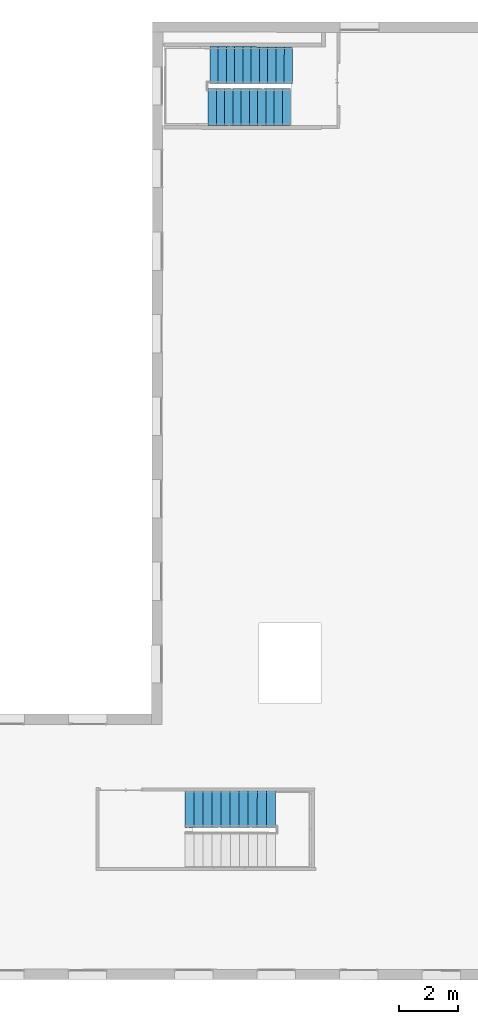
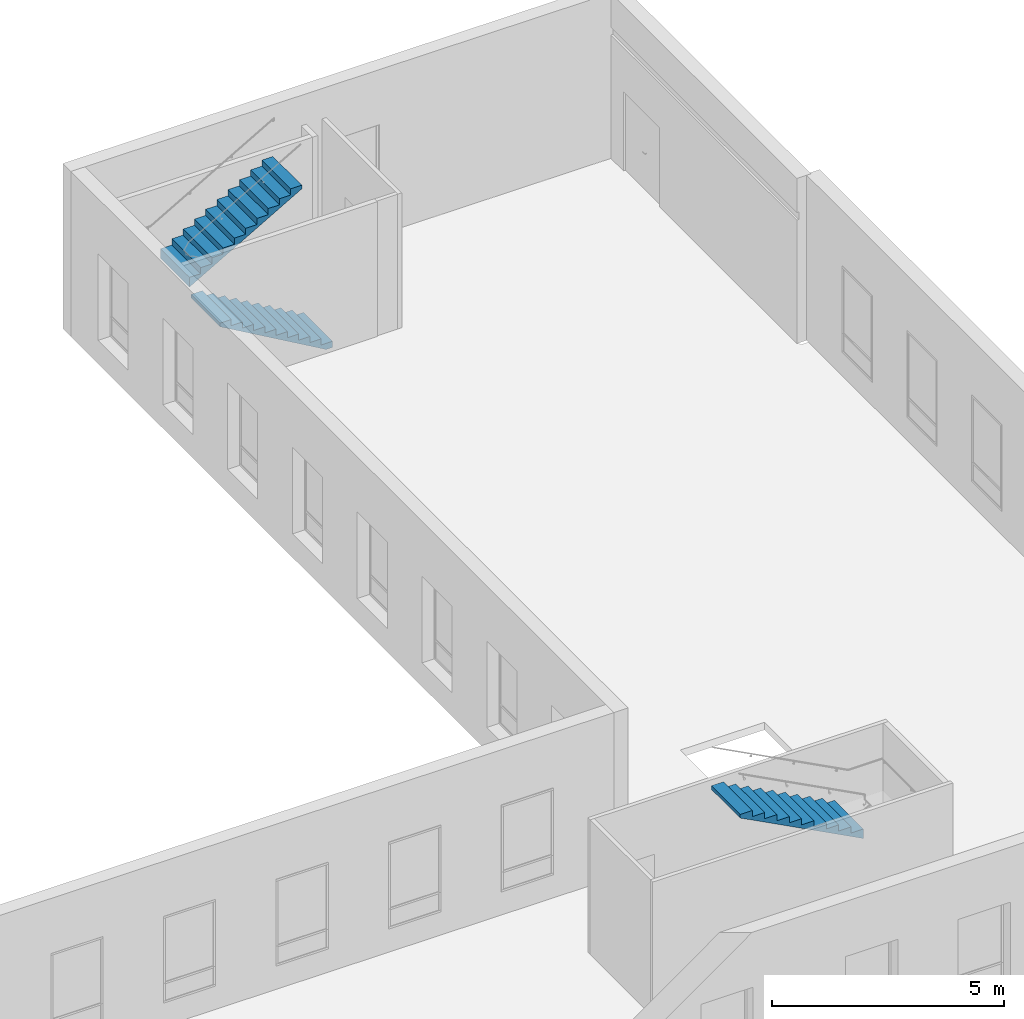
# One storey, part 35 of 35: 3 stair flights, 2 elements without a shape of their own.
"""IFC2X3 building model written with IfcOpenShell, lengths in metres."""

from ifc_helpers import new_model, entity, si_unit, converted_unit, derived_unit, direction, frame, origin, place, context, subcontext, project, spatial, faceted_brep, material, type_object, element, aggregate, save


model = new_model("IFC2X3")

# Units and contexts
model_context = context("Model", 3, precision=1e-05, world=origin(), true_north=direction((6.123233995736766e-17, 1.0)))
body_context = subcontext(model_context, "Body", "Model", "MODEL_VIEW")
ifc_project = project(units=[si_unit("LENGTHUNIT", "METRE"), si_unit("AREAUNIT", "SQUARE_METRE"), converted_unit("PLANEANGLEUNIT", "DEGREE", entity("IfcPlaneAngleMeasure", 0.017453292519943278), si_unit("PLANEANGLEUNIT", "RADIAN"), dimensions=[0, 0, 0, 0, 0, 0, 0]), derived_unit("THERMALTRANSMITTANCEUNIT", [(si_unit("MASSUNIT", "GRAM", prefix="KILO"), 1), (si_unit("THERMODYNAMICTEMPERATUREUNIT", "KELVIN"), -1), (si_unit("TIMEUNIT", "SECOND"), -3)])], contexts=[model_context])

# Site, building, storey
site_placement = place(None, frame((1253.6752467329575, 2072.143113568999, 91.49999999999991), z_axis=(0.0, 0.0, 1.0), x_axis=(0.7237211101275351, 0.6900925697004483, 0.0)))
site = spatial("IfcSite", under=ifc_project, at=site_placement, Name="Surface", CompositionType="ELEMENT")
building_placement = place(site_placement, origin())
building = spatial("IfcBuilding", under=site, at=building_placement, CompositionType="ELEMENT")
storey_placement = place(building_placement, frame((0.0, 0.0, 3.549999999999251)))
storey = spatial("IfcBuildingStorey", under=building, at=storey_placement, Name="1-R+1", CompositionType="ELEMENT", Elevation=3.549999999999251)

# Stair, stair flights
type_product = type_object("IfcTypeProduct", Name="Escalier coulé sur place:Monobloc")
stair_1_placement = place(storey_placement, origin())
stair_1 = element("IfcStair", 1, at=stair_1_placement, inside=storey, type_object=type_product, Name="Escalier coulé sur place:Escalier", ObjectType="Escalier coulé sur place:Monobloc", ShapeType="HALF_TURN_STAIR")
ifc_material = material(Name="<Unnamed>")
stair_flight_type = type_object("IfcStairFlightType", Name="Volée monobloc:Nez de marche 5 mm", PredefinedType="STRAIGHT")
stair_flight_1_placement = place(stair_1_placement, frame((191.56231951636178, -1.3462725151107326, 0.0)))
stair_flight_1 = element("IfcStairFlight", 2, at=stair_flight_1_placement, type_object=stair_flight_type, material=ifc_material, Name="Escalier coulé sur place:Escalier:3294087 Run 1", ObjectType="Volée monobloc:Nez de marche 5 mm", NumberOfRiser=11, NumberOfTreads=10, RiserHeight=0.5294082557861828, TreadLength=0.9186351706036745, context=body_context, shape_type="Brep", body=[
    faceted_brep([(1.0661334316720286, 2.6414120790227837, 1.9363636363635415), (0.8637297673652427, 2.834887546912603, 1.9363636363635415), (0.0, 1.9312997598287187, 1.9363636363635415), (0.2024036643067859, 1.7378242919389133, 1.9363636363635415), (1.0661334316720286, 2.641412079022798, 1.8440296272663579), (0.8637297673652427, 2.834887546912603, 1.6826659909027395), (0.8637297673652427, 2.834887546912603, 1.7749999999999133), (0.0, 1.9312997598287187, 1.6826659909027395), (0.0, 1.9312997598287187, 1.7749999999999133), (0.2024036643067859, 1.7378242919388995, 1.8440296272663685), (1.268537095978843, 2.447936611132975, 2.0977272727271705), (1.0661334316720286, 2.6414120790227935, 2.0977272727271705), (0.2024036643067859, 1.7378242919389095, 2.0977272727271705), (0.4048073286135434, 1.5443488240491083, 2.0977272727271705), (1.268537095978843, 2.447936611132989, 2.0053932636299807), (0.4048073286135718, 1.5443488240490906, 2.0053932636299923), (1.470940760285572, 2.254461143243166, 2.259090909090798), (1.268537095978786, 2.4479366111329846, 2.259090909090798), (0.4048073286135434, 1.5443488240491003, 2.259090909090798), (0.6072109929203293, 1.3508733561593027, 2.259090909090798), (1.470940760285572, 2.2544611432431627, 2.1667568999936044), (0.6072109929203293, 1.3508733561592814, 2.1667568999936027), (1.6733444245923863, 2.060985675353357, 2.420454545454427), (1.470940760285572, 2.2544611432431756, 2.420454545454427), (0.6072109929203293, 1.3508733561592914, 2.420454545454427), (0.8096146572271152, 1.1573978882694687, 2.420454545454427), (1.6733444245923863, 2.0609856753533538, 2.3281205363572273), (0.8096146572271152, 1.1573978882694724, 2.3281205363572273), (1.8757480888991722, 1.8675102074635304, 2.581818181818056), (1.6733444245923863, 2.0609856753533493, 2.581818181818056), (0.8096146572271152, 1.1573978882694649, 2.581818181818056), (1.0120183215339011, 0.9639224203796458, 2.581818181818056), (1.8757480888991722, 1.8675102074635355, 2.489484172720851), (1.0120183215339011, 0.9639224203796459, 2.489484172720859), (2.078151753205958, 1.6740347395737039, 2.743181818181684), (1.8757480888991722, 1.8675102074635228, 2.743181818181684), (1.0120183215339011, 0.9639224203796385, 2.743181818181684), (1.214421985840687, 0.7704469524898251, 2.743181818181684), (2.078151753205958, 1.6740347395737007, 2.6508478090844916), (1.214421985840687, 0.7704469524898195, 2.6508478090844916), (2.280555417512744, 1.480559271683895, 2.904545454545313), (2.078151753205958, 1.6740347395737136, 2.904545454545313), (1.214421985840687, 0.7704469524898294, 2.904545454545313), (1.4168256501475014, 0.5769714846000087, 2.904545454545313), (2.280555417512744, 1.4805592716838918, 2.8122114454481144), (1.4168256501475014, 0.5769714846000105, 2.8122114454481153), (2.48295908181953, 1.2870838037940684, 3.0659090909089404), (2.280555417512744, 1.4805592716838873, 3.0659090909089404), (1.4168256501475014, 0.576971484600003, 3.0659090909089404), (1.6192293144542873, 0.38349601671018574, 3.0659090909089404), (2.4829590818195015, 1.2870838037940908, 2.9735750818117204), (1.6192293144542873, 0.3834960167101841, 2.973575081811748), (2.685362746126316, 1.0936083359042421, 3.2272727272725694), (2.48295908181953, 1.2870838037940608, 3.2272727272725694), (1.6192293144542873, 0.38349601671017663, 3.2272727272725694), (1.8216329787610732, 0.19002054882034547, 3.2272727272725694), (2.685362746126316, 1.0936083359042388, 3.1349387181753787), (1.8216329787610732, 0.19002054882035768, 3.1349387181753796), (2.8841520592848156, 0.9035877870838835, 3.3886363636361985), (2.6853627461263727, 1.0936083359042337, 3.3886363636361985), (1.8216329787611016, 0.1900205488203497, 3.3886363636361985), (2.0204222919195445, 0.0, 3.3886363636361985), (2.8841520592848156, 0.9035877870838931, 3.293420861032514), (2.0204222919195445, 0.0, 3.293420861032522)], [[[0, 1, 2, 3]], [[1, 0, 4, 5, 6]], [[2, 1, 6, 5, 7, 8]], [[3, 2, 8, 7, 9]], [[10, 11, 12, 13]], [[11, 10, 14, 4, 0]], [[12, 11, 0, 3]], [[13, 12, 3, 9, 15]], [[16, 17, 18, 19]], [[17, 16, 20, 14, 10]], [[18, 17, 10, 13]], [[19, 18, 13, 15, 21]], [[22, 23, 24, 25]], [[23, 22, 26, 20, 16]], [[24, 23, 16, 19]], [[25, 24, 19, 21, 27]], [[28, 29, 30, 31]], [[29, 28, 32, 26, 22]], [[30, 29, 22, 25]], [[31, 30, 25, 27, 33]], [[34, 35, 36, 37]], [[35, 34, 38, 32, 28]], [[36, 35, 28, 31]], [[37, 36, 31, 33, 39]], [[40, 41, 42, 43]], [[41, 40, 44, 38, 34]], [[42, 41, 34, 37]], [[43, 42, 37, 39, 45]], [[46, 47, 48, 49]], [[47, 46, 50, 44, 40]], [[48, 47, 40, 43]], [[49, 48, 43, 45, 51]], [[52, 53, 54, 55]], [[53, 52, 56, 50, 46]], [[54, 53, 46, 49]], [[55, 54, 49, 51, 57]], [[58, 59, 60, 61]], [[59, 58, 62, 56, 52]], [[60, 59, 52, 55]], [[61, 60, 55, 57, 63]], [[58, 61, 63, 62]], [[5, 4, 14, 20, 26, 32, 38, 44, 50, 56, 62, 63, 57, 51, 45, 39, 33, 27, 21, 15, 9, 7]]]),
])
stair_flight_2_placement = place(stair_1_placement, frame((190.53775028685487, -2.3347441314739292, 0.0)))
stair_flight_2 = element("IfcStairFlight", 3, at=stair_flight_2_placement, type_object=stair_flight_type, material=ifc_material, Name="Escalier coulé sur place:Escalier:3294087 Run 2", ObjectType="Volée monobloc:Nez de marche 5 mm", NumberOfRiser=11, NumberOfTreads=10, RiserHeight=0.5294082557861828, TreadLength=0.9186351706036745, context=body_context, shape_type="Brep", body=[
    faceted_brep([(1.8216329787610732, 0.19347546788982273, 0.1613636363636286), (2.024036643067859, 0.0, 0.1613636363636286), (2.88776641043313, 0.9035877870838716, 0.1613636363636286), (2.685362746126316, 1.0970632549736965, 0.1613636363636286), (1.8216329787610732, 0.19347546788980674, 0.06902962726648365), (1.9082190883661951, 0.1107087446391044, 0.0), (2.024036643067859, 0.0, 0.0), (2.88776641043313, 0.9035877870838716, 0.0), (2.7719488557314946, 1.014296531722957, 0.0), (2.685362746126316, 1.0970632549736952, 0.06902962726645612), (1.6192293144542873, 0.38695093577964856, 0.32272727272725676), (1.8216329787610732, 0.19347546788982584, 0.32272727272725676), (2.685362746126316, 1.0970632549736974, 0.32272727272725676), (2.48295908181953, 1.290538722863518, 0.32272727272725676), (1.6192293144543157, 0.38695093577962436, 0.2303932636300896), (2.48295908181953, 1.2905387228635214, 0.23039326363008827), (1.416825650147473, 0.5804264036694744, 0.48409090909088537), (1.6192293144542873, 0.3869509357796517, 0.48409090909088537), (2.48295908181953, 1.2905387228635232, 0.48409090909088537), (2.280555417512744, 1.484014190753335, 0.48409090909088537), (1.416825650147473, 0.5804264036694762, 0.3917568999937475), (2.280555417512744, 1.4840141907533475, 0.39175689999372), (1.214421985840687, 0.7739018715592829, 0.6454545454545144), (1.416825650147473, 0.5804264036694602, 0.6454545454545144), (2.280555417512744, 1.484014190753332, 0.6454545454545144), (2.078151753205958, 1.6774896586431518, 0.6454545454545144), (1.214421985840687, 0.7739018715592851, 0.5531205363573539), (2.078151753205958, 1.6774896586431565, 0.5531205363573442), (1.0120183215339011, 0.967377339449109, 0.8068181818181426), (1.214421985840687, 0.7739018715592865, 0.8068181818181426), (2.078151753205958, 1.677489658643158, 0.8068181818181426), (1.8757480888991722, 1.87096512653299, 0.8068181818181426), (1.0120183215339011, 0.9673773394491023, 0.7144841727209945), (1.8757480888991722, 1.8709651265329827, 0.7144841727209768), (0.8096146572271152, 1.1608528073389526, 0.9681818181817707), (1.0120183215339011, 0.9673773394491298, 0.9681818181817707), (1.8757480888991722, 1.8709651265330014, 0.9681818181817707), (1.6733444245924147, 2.064440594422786, 0.9681818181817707), (0.8096146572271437, 1.1608528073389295, 0.8758478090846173), (1.6733444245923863, 2.0644405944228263, 0.8758478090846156), (0.6072109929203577, 1.354328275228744, 1.129545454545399), (0.8096146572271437, 1.1608528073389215, 1.129545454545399), (1.6733444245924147, 2.064440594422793, 1.129545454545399), (1.4709407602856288, 2.257916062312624, 1.129545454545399), (0.6072109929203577, 1.3543282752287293, 1.037211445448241), (1.4709407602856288, 2.257916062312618, 1.0372114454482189), (0.4048073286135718, 1.5478037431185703, 1.290909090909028), (0.6072109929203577, 1.3543282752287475, 1.290909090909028), (1.4709407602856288, 2.257916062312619, 1.290909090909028), (1.2685370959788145, 2.4513915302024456, 1.290909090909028), (0.40480732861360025, 1.5478037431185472, 1.198575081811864), (1.2685370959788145, 2.4513915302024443, 1.1985750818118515), (0.2024036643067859, 1.7412792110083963, 1.452272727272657), (0.4048073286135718, 1.5478037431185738, 1.452272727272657), (1.2685370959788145, 2.451391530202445, 1.452272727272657), (1.0661334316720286, 2.6448669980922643, 1.452272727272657), (0.20240366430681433, 1.7412792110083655, 1.3599387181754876), (1.0661334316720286, 2.6448669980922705, 1.3599387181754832), (0.0, 1.9347546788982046, 1.6136363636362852), (0.0036143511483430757, 1.9312997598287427, 1.6136363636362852), (0.2024036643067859, 1.7412792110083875, 1.6136363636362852), (1.0661334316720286, 2.64486699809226, 1.6136363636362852), (0.8637297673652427, 2.838342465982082, 1.6136363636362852), (0.0, 1.934754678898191, 1.5213023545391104), (0.0036143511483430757, 1.9312997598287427, 1.5184208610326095), (0.8637297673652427, 2.838342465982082, 1.5213023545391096)], [[[0, 1, 2, 3]], [[1, 0, 4, 5, 6]], [[2, 1, 6, 7]], [[3, 2, 7, 8, 9]], [[10, 11, 12, 13]], [[11, 10, 14, 4, 0]], [[0, 3, 12, 11]], [[13, 12, 3, 9, 15]], [[16, 17, 18, 19]], [[17, 16, 20, 14, 10]], [[10, 13, 18, 17]], [[19, 18, 13, 15, 21]], [[22, 23, 24, 25]], [[23, 22, 26, 20, 16]], [[16, 19, 24, 23]], [[25, 24, 19, 21, 27]], [[28, 29, 30, 31]], [[29, 28, 32, 26, 22]], [[22, 25, 30, 29]], [[31, 30, 25, 27, 33]], [[34, 35, 36, 37]], [[35, 34, 38, 32, 28]], [[28, 31, 36, 35]], [[37, 36, 31, 33, 39]], [[40, 41, 42, 43]], [[41, 40, 44, 38, 34]], [[34, 37, 42, 41]], [[43, 42, 37, 39, 45]], [[46, 47, 48, 49]], [[47, 46, 50, 44, 40]], [[40, 43, 48, 47]], [[49, 48, 43, 45, 51]], [[52, 53, 54, 55]], [[53, 52, 56, 50, 46]], [[46, 49, 54, 53]], [[55, 54, 49, 51, 57]], [[58, 59, 60, 61, 62]], [[59, 58, 63, 64]], [[52, 55, 61, 60]], [[62, 61, 55, 57, 65]], [[58, 62, 65, 63]], [[7, 6, 5, 8]], [[60, 59, 64, 56, 52]], [[8, 5, 4, 14, 20, 26, 32, 38, 44, 50, 56, 64, 63, 65, 57, 51, 45, 39, 33, 27, 21, 15, 9]]]),
])
aggregate(stair_1, [stair_flight_1, stair_flight_2])

# Stair, stair flight
stair_2_placement = place(storey_placement, origin())
stair_2 = element("IfcStair", 4, at=stair_2_placement, inside=storey, type_object=type_product, Name="Escalier coulé sur place:Escalier", ObjectType="Escalier coulé sur place:Monobloc", ShapeType="HALF_TURN_STAIR")
stair_flight_3_placement = place(stair_2_placement, frame((173.541142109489, -19.204087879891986, 0.0)))
stair_flight_3 = element("IfcStairFlight", 5, at=stair_flight_3_placement, type_object=stair_flight_type, material=ifc_material, Name="Escalier coulé sur place:Escalier:3294156 Run 2", ObjectType="Volée monobloc:Nez de marche 5 mm", NumberOfRiser=11, NumberOfTreads=10, RiserHeight=0.5294082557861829, TreadLength=1.0081126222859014, context=body_context, shape_type="Brep", body=[
    faceted_brep([(1.9954504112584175, 0.21232048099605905, 1.9363636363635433), (2.2175687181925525, 0.0, 1.9363636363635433), (3.0812984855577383, 0.9035877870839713, 1.9363636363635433), (2.85918017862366, 1.1159082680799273, 1.9363636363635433), (1.9954504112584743, 0.21232048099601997, 1.8460032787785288), (2.2175687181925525, 0.0, 1.684639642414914), (2.2175687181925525, 0.0, 1.7749999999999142), (3.0812984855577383, 0.9035877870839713, 1.6846396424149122), (3.0812984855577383, 0.9035877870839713, 1.7749999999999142), (2.8591801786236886, 1.115908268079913, 1.8460032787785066), (1.7733321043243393, 0.42464096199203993, 2.0977272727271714), (1.9954504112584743, 0.21232048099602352, 2.0977272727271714), (2.85918017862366, 1.1159082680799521, 2.0977272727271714), (2.637061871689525, 1.3282287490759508, 2.0977272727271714), (1.7733321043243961, 0.4246409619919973, 2.0073669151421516), (2.6370618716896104, 1.328228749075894, 2.0073669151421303), (1.5512137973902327, 0.6369614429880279, 2.2590909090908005), (1.7733321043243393, 0.4246409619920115, 2.2590909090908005), (2.637061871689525, 1.3282287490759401, 2.2590909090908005), (2.414943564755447, 1.5405492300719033, 2.2590909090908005), (1.551213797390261, 0.6369614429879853, 2.168730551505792), (2.4149435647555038, 1.5405492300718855, 2.168730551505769), (1.329095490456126, 0.8492819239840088, 2.4204545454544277), (1.5512137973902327, 0.6369614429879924, 2.4204545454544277), (2.4149435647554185, 1.540549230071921, 2.4204545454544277), (2.1928252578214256, 1.752869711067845, 2.4204545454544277), (1.329095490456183, 0.8492819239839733, 2.330094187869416), (2.1928252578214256, 1.7528697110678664, 2.330094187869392), (1.1069771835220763, 1.0616024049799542, 2.581818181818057), (1.329095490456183, 0.8492819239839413, 2.581818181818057), (2.1928252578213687, 1.75286971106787, 2.581818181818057), (1.970706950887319, 1.9651901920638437, 2.581818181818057), (1.1069771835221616, 1.061602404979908, 2.491457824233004), (1.9707069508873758, 1.9651901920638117, 2.491457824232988), (0.8848588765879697, 1.2739228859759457, 2.743181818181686), (1.1069771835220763, 1.0616024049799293, 2.743181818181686), (1.970706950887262, 1.965190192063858, 2.743181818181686), (1.7485886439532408, 2.1775106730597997, 2.743181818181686), (0.8848588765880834, 1.273922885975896, 2.6528214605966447), (1.7485886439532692, 2.1775106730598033, 2.652821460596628), (0.6627405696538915, 1.4862433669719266, 2.904545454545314), (0.8848588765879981, 1.2739228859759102, 2.904545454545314), (1.748588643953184, 2.177510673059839, 2.904545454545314), (1.5264703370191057, 2.3898311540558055, 2.904545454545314), (0.6627405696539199, 1.4862433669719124, 2.8141850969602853), (1.526470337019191, 2.389831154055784, 2.8141850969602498), (0.4406222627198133, 1.6985638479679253, 3.065909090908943), (0.6627405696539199, 1.4862433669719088, 3.065909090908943), (1.5264703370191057, 2.3898311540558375, 3.065909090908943), (1.3043520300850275, 2.6021516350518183, 3.065909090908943), (0.44062226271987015, 1.698563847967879, 2.975548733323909), (1.3043520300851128, 2.6021516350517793, 2.975548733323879), (0.2185039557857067, 1.9108843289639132, 3.2272727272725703), (0.4406222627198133, 1.6985638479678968, 3.2272727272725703), (1.3043520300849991, 2.6021516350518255, 3.2272727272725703), (1.0822337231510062, 2.8144721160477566, 3.2272727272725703), (0.21850395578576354, 1.9108843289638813, 3.1369123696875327), (1.0822337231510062, 2.814472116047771, 3.1369123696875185), (0.0, 2.1197498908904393, 3.3886363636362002), (0.21850395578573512, 1.910884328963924, 3.3886363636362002), (1.0822337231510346, 2.8144721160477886, 3.3886363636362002), (0.8637297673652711, 3.0233376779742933, 3.3886363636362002), (0.0, 2.1197498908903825, 3.2956502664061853), (0.8637297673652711, 3.0233376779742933, 3.2956502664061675)], [[[0, 1, 2, 3]], [[1, 0, 4, 5, 6]], [[2, 1, 6, 5, 7, 8]], [[3, 2, 8, 7, 9]], [[10, 11, 12, 13]], [[11, 10, 14, 4, 0]], [[12, 11, 0, 3]], [[13, 12, 3, 9, 15]], [[16, 17, 18, 19]], [[17, 16, 20, 14, 10]], [[18, 17, 10, 13]], [[19, 18, 13, 15, 21]], [[22, 23, 24, 25]], [[23, 22, 26, 20, 16]], [[24, 23, 16, 19]], [[25, 24, 19, 21, 27]], [[28, 29, 30, 31]], [[29, 28, 32, 26, 22]], [[30, 29, 22, 25]], [[31, 30, 25, 27, 33]], [[34, 35, 36, 37]], [[35, 34, 38, 32, 28]], [[36, 35, 28, 31]], [[37, 36, 31, 33, 39]], [[40, 41, 42, 43]], [[41, 40, 44, 38, 34]], [[42, 41, 34, 37]], [[43, 42, 37, 39, 45]], [[46, 47, 48, 49]], [[47, 46, 50, 44, 40]], [[48, 47, 40, 43]], [[49, 48, 43, 45, 51]], [[52, 53, 54, 55]], [[53, 52, 56, 50, 46]], [[54, 53, 46, 49]], [[55, 54, 49, 51, 57]], [[58, 59, 60, 61]], [[59, 58, 62, 56, 52]], [[60, 59, 52, 55]], [[61, 60, 55, 57, 63]], [[58, 61, 63, 62]], [[5, 4, 14, 20, 26, 32, 38, 44, 50, 56, 62, 63, 57, 51, 45, 39, 33, 27, 21, 15, 9, 7]]]),
])
aggregate(stair_2, [stair_flight_3])

save(model, "model.ifc")
